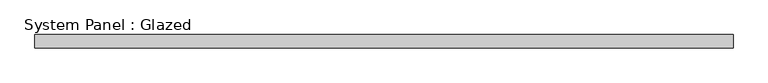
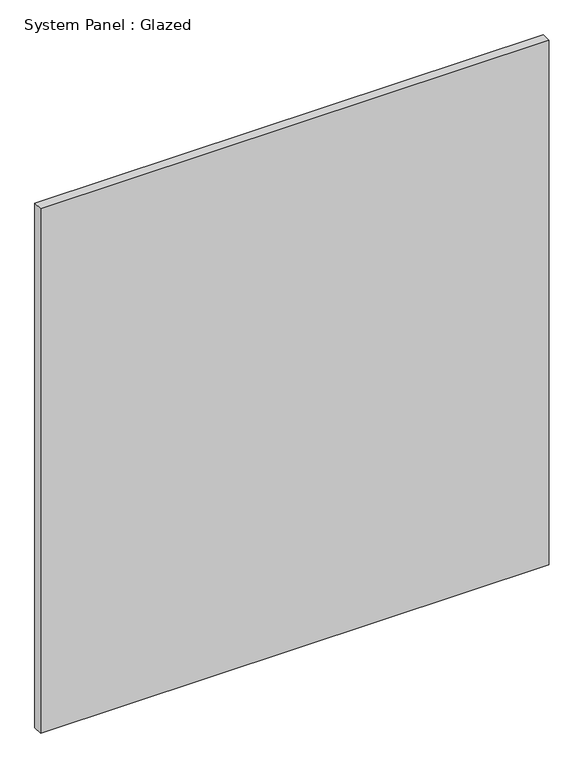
"""IFC4 building model written with IfcOpenShell, lengths in millimetres: plate geometry, System Panel : Glazed."""

import ifcopenshell
import ifcopenshell.guid

model = None  # the IFC model being written
_history = None  # IfcOwnerHistory: only IFC2X3 demands one
_inside = {}  # id of a spatial element -> (the spatial element, [elements in it])
_under = {}  # id of a project, library or spatial element -> (it, [spatial elements below it])
_declared = {}  # id of a project -> (the project, [libraries it declares])
_typed = {}  # id of a type object -> (the type object, [elements of that type])
_made_of = {}  # id of a material, layer set ... -> (it, [elements and type objects made of it])


def new_model(schema):
    """Start an empty IFC model of exactly this schema.

    Asked for "IFC4X3", IfcOpenShell would pick the latest addendum, in which some entities
    have other attributes; the version numbers below select the first issue.
    IFC2X3 requires an IfcOwnerHistory on every rooted entity: one is made here for all.
    """
    global model, _history
    if schema == "IFC4X3":
        model = ifcopenshell.file(schema_version=(4, 3, 0, 0))
    else:
        model = ifcopenshell.file(schema=schema)
    _inside.clear()
    _under.clear()
    _declared.clear()
    _typed.clear()
    _made_of.clear()
    _history = None
    if model.schema == "IFC2X3":
        org = make("IfcOrganization", Name="unknown")
        user = make(
            "IfcPersonAndOrganization",
            ThePerson=make("IfcPerson", FamilyName="unknown"),
            TheOrganization=org,
        )
        app = make(
            "IfcApplication",
            ApplicationDeveloper=org,
            Version="unknown",
            ApplicationFullName="unknown",
            ApplicationIdentifier="unknown",
        )
        _history = make(
            "IfcOwnerHistory",
            OwningUser=user,
            OwningApplication=app,
            ChangeAction="ADDED",
            CreationDate=0,
        )
    return model


def make(cls, **values):
    """One entity of the class cls with the attributes given. An attribute that is None is left unset."""
    return model.create_entity(
        cls, **{name: value for name, value in values.items() if value is not None}
    )


def rooted(cls, **values):
    """An entity with a GlobalId (a new one), such as an element, a storey or a relation."""
    return make(cls, GlobalId=ifcopenshell.guid.new(), OwnerHistory=_history, **values)


def si_unit(unit_type, name, prefix=None):
    """IfcSIUnit, for example si_unit("LENGTHUNIT", "METRE", prefix="MILLI")."""
    return make("IfcSIUnit", UnitType=unit_type, Prefix=prefix, Name=name)


def assignment(units):
    """IfcUnitAssignment: the units of a project."""
    return None if units is None else make("IfcUnitAssignment", Units=units)


def point(xyz):
    """IfcCartesianPoint."""
    return None if xyz is None else make("IfcCartesianPoint", Coordinates=xyz)


def direction(xyz):
    """IfcDirection."""
    return None if xyz is None else make("IfcDirection", DirectionRatios=xyz)


def frame(location, z_axis=None, x_axis=None):
    """IfcAxis2Placement3D, a coordinate frame: its origin and axes. An axis left out is left unset."""
    return make(
        "IfcAxis2Placement3D",
        Location=point(location),
        Axis=direction(z_axis),
        RefDirection=direction(x_axis),
    )


def origin():
    """The frame at (0, 0, 0) with its axes left unset."""
    return frame((0.0, 0.0, 0.0))


def origin_with_axes():
    """The frame at (0, 0, 0) with the z axis (0, 0, 1) and the x axis (1, 0, 0) written out."""
    return frame((0.0, 0.0, 0.0), z_axis=(0.0, 0.0, 1.0), x_axis=(1.0, 0.0, 0.0))


def place(relative_to, where):
    """IfcLocalPlacement: puts the frame where relative to a parent placement (None: the world)."""
    return make(
        "IfcLocalPlacement", PlacementRelTo=relative_to, RelativePlacement=where
    )


def context(
    kind, dimensions, precision=None, world=None, true_north=None, identifier=None
):
    """IfcGeometricRepresentationContext, for example the 3D "Model" context."""
    return make(
        "IfcGeometricRepresentationContext",
        ContextIdentifier=identifier,
        ContextType=kind,
        CoordinateSpaceDimension=dimensions,
        Precision=precision,
        WorldCoordinateSystem=world,
        TrueNorth=true_north,
    )


def project(units=None, contexts=None):
    """IfcProject with its units and contexts."""
    return rooted(
        "IfcProject",
        Name="project",
        RepresentationContexts=contexts,
        UnitsInContext=assignment(units),
    )


def spatial(cls, under=None, at=None, **own):
    """A site, building, storey or space (cls), placed at a placement, below another one or the project."""
    s = rooted(cls, ObjectPlacement=at, **own)
    if under is not None:
        _under.setdefault(under.id(), (under, []))[1].append(s)
    return s


def polyline(points):
    """IfcPolyline through the points."""
    return make("IfcPolyline", Points=[point(p) for p in points])


def outline(outer, holes=None, kind="AREA"):
    """IfcArbitraryClosedProfileDef: a profile drawn as a closed curve; with holes, ...WithVoids."""
    if holes is None:
        return make("IfcArbitraryClosedProfileDef", ProfileType=kind, OuterCurve=outer)
    return make(
        "IfcArbitraryProfileDefWithVoids",
        ProfileType=kind,
        OuterCurve=outer,
        InnerCurves=holes,
    )


def extrude(swept, where, along, depth):
    """IfcExtrudedAreaSolid: the profile swept, set in the frame where, extruded along a direction by depth."""
    return make(
        "IfcExtrudedAreaSolid",
        SweptArea=swept,
        Position=where,
        ExtrudedDirection=direction(along),
        Depth=depth,
    )


def shape(context_of_items, identifier, shape_type, items):
    """IfcShapeRepresentation: the items that make up one representation, for example the "Body"."""
    return make(
        "IfcShapeRepresentation",
        ContextOfItems=context_of_items,
        RepresentationIdentifier=identifier,
        RepresentationType=shape_type,
        Items=items,
    )


def source(mapping_origin, context_of_items, identifier, shape_type, items):
    """IfcRepresentationMap: a shape defined once, which mapped items show again and again."""
    return make(
        "IfcRepresentationMap",
        MappingOrigin=mapping_origin,
        MappedRepresentation=shape(context_of_items, identifier, shape_type, items),
    )


def transform(
    local_origin,
    x_axis=None,
    y_axis=None,
    z_axis=None,
    scale=None,
    scale2=None,
    scale3=None,
    uniform=True,
):
    """IfcCartesianTransformationOperator3D, or its non-uniform kind. x_axis, y_axis, z_axis: its Axis1, 2, 3."""
    if uniform:
        return make(
            "IfcCartesianTransformationOperator3D",
            Axis1=direction(x_axis),
            Axis2=direction(y_axis),
            LocalOrigin=point(local_origin),
            Scale=scale,
            Axis3=direction(z_axis),
        )
    return make(
        "IfcCartesianTransformationOperator3DnonUniform",
        Axis1=direction(x_axis),
        Axis2=direction(y_axis),
        LocalOrigin=point(local_origin),
        Scale=scale,
        Axis3=direction(z_axis),
        Scale2=scale2,
        Scale3=scale3,
    )


def mapped(mapping_source, mapping_target):
    """IfcMappedItem: shows the shape of a source again, moved by a transform."""
    return make(
        "IfcMappedItem", MappingSource=mapping_source, MappingTarget=mapping_target
    )


def made_of(thing, what):
    """Note that an element or type object is made of a material, layer set ...; save() writes the relation."""
    if what is not None:
        _made_of.setdefault(what.id(), (what, []))[1].append(thing)
    return thing


def element(
    cls,
    number,
    at=None,
    inside=None,
    cuts=None,
    type_object=None,
    material=None,
    context=None,
    identifier="Body",
    shape_type=None,
    held_by="IfcProductDefinitionShape",
    body=None,
    shapes=None,
    **own,
):
    """One element of the class cls, such as IfcWall. Its Tag is "e" and its number.

    at: its placement. inside: the storey or other place that contains it. cuts: it is an
    opening in that element (IfcRelVoidsElement). A single representation is given by context,
    identifier, shape_type and body (its items); several are given by shapes. held_by: the class
    of the entity that holds the representations. save() writes the other relations.
    """
    e = rooted(cls, Tag="e%d" % number, ObjectPlacement=at, **own)
    if body is not None:
        shapes = [shape(context, identifier, shape_type, body)]
    if shapes is not None:
        e.Representation = make(held_by, Representations=shapes)
    if inside is not None:
        _inside.setdefault(inside.id(), (inside, []))[1].append(e)
    if cuts is not None:
        rooted(
            "IfcRelVoidsElement", RelatingBuildingElement=cuts, RelatedOpeningElement=e
        )
    if type_object is not None:
        _typed.setdefault(type_object.id(), (type_object, []))[1].append(e)
    return made_of(e, material)


def aggregate(whole, parts):
    """IfcRelAggregates: a whole, such as a stair, and the parts it consists of."""
    return rooted("IfcRelAggregates", RelatingObject=whole, RelatedObjects=parts)


def save(model, path):
    """Write the relations noted so far, then the file.

    IfcRelAggregates (storeys below a building ...), IfcRelContainedInSpatialStructure (elements
    in a storey), IfcRelDefinesByType, IfcRelAssociatesMaterial and IfcRelDeclares: one each for
    every whole, place, type object, material and project.
    """
    for whole, parts in _under.values():
        aggregate(whole, parts)
    for where, things in _inside.values():
        rooted(
            "IfcRelContainedInSpatialStructure",
            RelatedElements=things,
            RelatingStructure=where,
        )
    for kind, things in _typed.values():
        rooted("IfcRelDefinesByType", RelatedObjects=things, RelatingType=kind)
    for what, things in _made_of.values():
        rooted("IfcRelAssociatesMaterial", RelatedObjects=things, RelatingMaterial=what)
    for by, libraries in _declared.values():
        rooted("IfcRelDeclares", RelatingContext=by, RelatedDefinitions=libraries)
    model.write(path)


def system_panel_glazed_e4ec4e41(model_context):
    return source(origin(), model_context, "Body", "SweptSolid", [
        extrude(outline(polyline([(653.6827248, 24.5), (-653.6827248, 24.5), (-653.6827248, 49.5), (653.6827248, 49.5), (653.6827248, 24.5)])), origin_with_axes(), (0.0, 0.0, 1.0), 1424.0),
    ])


if __name__ == "__main__":
    model = new_model("IFC4")
    model_context = context("Model", 3, world=origin())
    ifc_project = project(units=[si_unit("LENGTHUNIT", "METRE", prefix="MILLI")], contexts=[model_context])
    site = spatial("IfcSite", under=ifc_project)
    building = spatial("IfcBuilding", under=site)
    placement = place(None, origin())
    system_panel_glazed_shape = system_panel_glazed_e4ec4e41(model_context)
    element("IfcPlate", 1, ObjectType="System Panel : Glazed", at=placement, inside=building, context=model_context, shape_type="MappedRepresentation", body=[
        mapped(system_panel_glazed_shape, transform((0.0, 0.0, 0.0), x_axis=(1.0, 0.0, 0.0), y_axis=(0.0, 1.0, 0.0), z_axis=(0.0, 0.0, 1.0))),
    ])
    save(model, "model.ifc")
